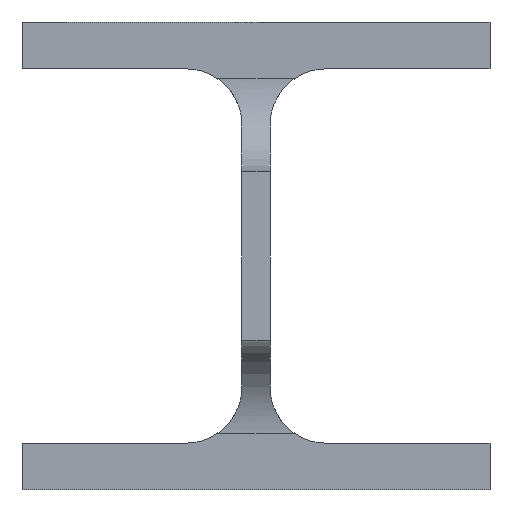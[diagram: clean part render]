
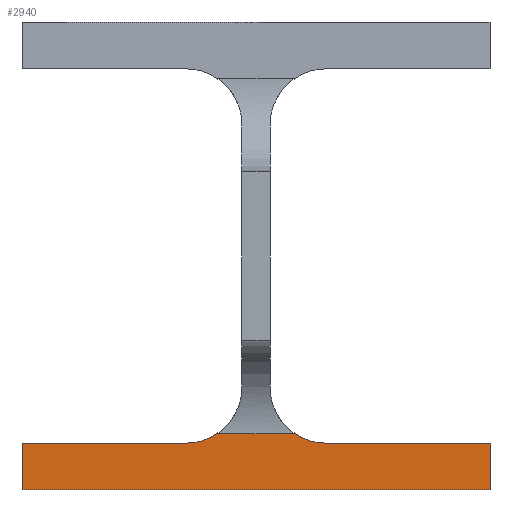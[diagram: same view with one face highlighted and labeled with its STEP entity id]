
A CAD part, front view. The second image highlights one B-rep face of the part: STEP entity #2940.
In plain terms, the highlighted planar face has unit normal (0, -1, 0).
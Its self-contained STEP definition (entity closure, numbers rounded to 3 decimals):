
#79 = CARTESIAN_POINT ( 'NONE',  ( 8895., 52., 2290. ) ) ;
#166 = EDGE_CURVE ( 'NONE', #1643, #1194, #1588, .T. ) ;
#182 = ORIENTED_EDGE ( 'NONE', *, *, #2476, .T. ) ;
#255 = DIRECTION ( 'NONE',  ( 1., 0., 0. ) ) ;
#264 = EDGE_LOOP ( 'NONE', ( #1285, #2539, #1392, #2465, #1530, #2287, #2189, #182 ) ) ;
#296 = VECTOR ( 'NONE', #1008, 1000. ) ;
#376 = CARTESIAN_POINT ( 'NONE',  ( 8995., 52., 2300. ) ) ;
#416 = CARTESIAN_POINT ( 'NONE',  ( 8995., 52., 2290. ) ) ;
#439 = DIRECTION ( 'NONE',  ( 0., 1., 0. ) ) ;
#485 = CARTESIAN_POINT ( 'NONE',  ( 8930., 52., 2312. ) ) ;
#508 = CARTESIAN_POINT ( 'NONE',  ( 11000., 52., 2302. ) ) ;
#520 = EDGE_CURVE ( 'NONE', #1194, #2347, #2449, .T. ) ;
#567 = DIRECTION ( 'NONE',  ( -1., 0., 0. ) ) ;
#702 = CARTESIAN_POINT ( 'NONE',  ( 8895., 52., 2300. ) ) ;
#752 = VECTOR ( 'NONE', #567, 1000. ) ;
#764 = CARTESIAN_POINT ( 'NONE',  ( 8895., 52., 2300. ) ) ;
#931 = DIRECTION ( 'NONE',  ( 0., 0., -1. ) ) ;
#941 = VECTOR ( 'NONE', #1015, 1000. ) ;
#971 = EDGE_CURVE ( 'NONE', #1018, #1643, #2682, .T. ) ;
#1008 = DIRECTION ( 'NONE',  ( -1., 0., 0. ) ) ;
#1015 = DIRECTION ( 'NONE',  ( -1., 0., 0. ) ) ;
#1018 = VERTEX_POINT ( 'NONE', #1962 ) ;
#1042 = CARTESIAN_POINT ( 'NONE',  ( 8960., 52., 2300. ) ) ;
#1055 = AXIS2_PLACEMENT_3D ( 'NONE', #1404, #439, #931 ) ;
#1104 = VERTEX_POINT ( 'NONE', #764 ) ;
#1168 = AXIS2_PLACEMENT_3D ( 'NONE', #2979, #2271, #2992 ) ;
#1194 = VERTEX_POINT ( 'NONE', #376 ) ;
#1285 = ORIENTED_EDGE ( 'NONE', *, *, #1753, .T. ) ;
#1304 = FACE_OUTER_BOUND ( 'NONE', #264, .T. ) ;
#1392 = ORIENTED_EDGE ( 'NONE', *, *, #1929, .T. ) ;
#1404 = CARTESIAN_POINT ( 'NONE',  ( 8960., 52., 2312. ) ) ;
#1436 = CARTESIAN_POINT ( 'NONE',  ( 8930., 52., 2300. ) ) ;
#1491 = EDGE_CURVE ( 'NONE', #2347, #1672, #2369, .T. ) ;
#1530 = ORIENTED_EDGE ( 'NONE', *, *, #166, .T. ) ;
#1539 = LINE ( 'NONE', #79, #2675 ) ;
#1572 = PLANE ( 'NONE',  #1168 ) ;
#1588 = LINE ( 'NONE', #1834, #2909 ) ;
#1643 = VERTEX_POINT ( 'NONE', #416 ) ;
#1672 = VERTEX_POINT ( 'NONE', #3026 ) ;
#1708 = CIRCLE ( 'NONE', #2924, 12. ) ;
#1753 = EDGE_CURVE ( 'NONE', #3031, #2873, #1708, .T. ) ;
#1834 = CARTESIAN_POINT ( 'NONE',  ( 8995., 52., 2300. ) ) ;
#1845 = CARTESIAN_POINT ( 'NONE',  ( 8960., 52., 2300. ) ) ;
#1866 = CARTESIAN_POINT ( 'NONE',  ( 8936.633, 52., 2302. ) ) ;
#1929 = EDGE_CURVE ( 'NONE', #1104, #1018, #1539, .T. ) ;
#1932 = CARTESIAN_POINT ( 'NONE',  ( 8995., 52., 2290. ) ) ;
#1962 = CARTESIAN_POINT ( 'NONE',  ( 8895., 52., 2290. ) ) ;
#2103 = VECTOR ( 'NONE', #255, 1000. ) ;
#2189 = ORIENTED_EDGE ( 'NONE', *, *, #1491, .T. ) ;
#2217 = LINE ( 'NONE', #508, #752 ) ;
#2239 = DIRECTION ( 'NONE',  ( 0., 0., -1. ) ) ;
#2271 = DIRECTION ( 'NONE',  ( 0., -1., 0. ) ) ;
#2287 = ORIENTED_EDGE ( 'NONE', *, *, #520, .T. ) ;
#2347 = VERTEX_POINT ( 'NONE', #1845 ) ;
#2369 = CIRCLE ( 'NONE', #1055, 12. ) ;
#2449 = LINE ( 'NONE', #1042, #941 ) ;
#2465 = ORIENTED_EDGE ( 'NONE', *, *, #971, .T. ) ;
#2476 = EDGE_CURVE ( 'NONE', #1672, #3031, #2217, .T. ) ;
#2539 = ORIENTED_EDGE ( 'NONE', *, *, #2763, .T. ) ;
#2667 = DIRECTION ( 'NONE',  ( 0., 1., 0. ) ) ;
#2675 = VECTOR ( 'NONE', #2239, 1000. ) ;
#2682 = LINE ( 'NONE', #1932, #2103 ) ;
#2758 = DIRECTION ( 'NONE',  ( 0., 0., 1. ) ) ;
#2763 = EDGE_CURVE ( 'NONE', #2873, #1104, #2877, .T. ) ;
#2873 = VERTEX_POINT ( 'NONE', #1436 ) ;
#2877 = LINE ( 'NONE', #702, #296 ) ;
#2909 = VECTOR ( 'NONE', #2758, 1000. ) ;
#2919 = DIRECTION ( 'NONE',  ( 0., 0., -1. ) ) ;
#2924 = AXIS2_PLACEMENT_3D ( 'NONE', #485, #2667, #2919 ) ;
#2940 = ADVANCED_FACE ( 'NONE', ( #1304 ), #1572, .T. ) ;
#2979 = CARTESIAN_POINT ( 'NONE',  ( 11000., 52., 2300. ) ) ;
#2992 = DIRECTION ( 'NONE',  ( 0., 0., -1. ) ) ;
#3026 = CARTESIAN_POINT ( 'NONE',  ( 8953.367, 52., 2302. ) ) ;
#3031 = VERTEX_POINT ( 'NONE', #1866 ) ;
